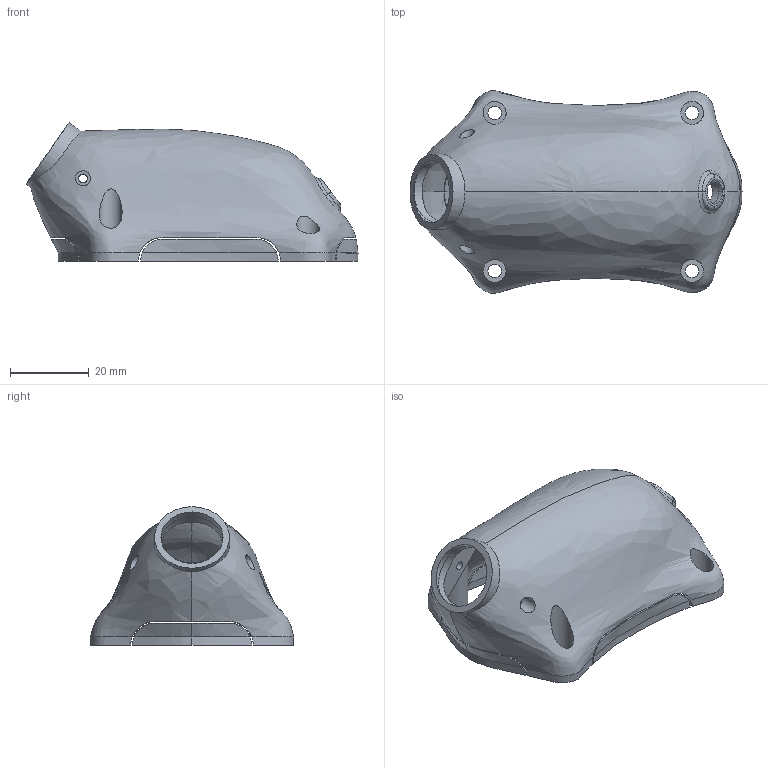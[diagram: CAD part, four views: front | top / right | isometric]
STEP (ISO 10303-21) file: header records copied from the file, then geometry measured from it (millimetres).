
FILE_DESCRIPTION(/* description */ (''),/* implementation_level */ '2;1');
FILE_NAME(/* name */ 'C:/modellbau-koepenick.de/canopies/pods/ZOZI/BusyMole/m193520-m___ZOz1-canopy_by_SMK.step',/* time_stamp */ '2021-10-15T23:13:52+02:00',/* author */ (''),/* organization */ (''),/* preprocessor_version */ 'ST-DEVELOPER v18.1',/* originating_system */ 'Autodesk Translation Framework v10.10.0.1391',/* authorisation */ '');
FILE_SCHEMA (('AUTOMOTIVE_DESIGN { 1 0 10303 214 3 1 1 }'));
Length unit declared in the file: millimetre
Products named in the file (1): m193520-m___ZOz1-canopy_by_SMK
Bounding box: 84.06 x 51.42 x 35.08 mm (x, y, z)
Volume: 14589.2 mm3; surface area: 16137.7 mm2
Topology: 5 solids, 5 shells, 117 faces, 318 edges, 211 vertices
Faces by surface type: bspline 50, cylinder 39, plane 28
Full cylindrical faces by diameter (mm): 2.2 x2, 3.4 x4, 3.8 x2, 5.8 x4, 6.2 x1, 15.75 x1, 19 x1
Entity records: 19227 total; most frequent: CARTESIAN_POINT 16771, ORIENTED_EDGE 624, EDGE_CURVE 312, DIRECTION 269, B_SPLINE_CURVE_WITH_KNOTS 213, VERTEX_POINT 211, EDGE_LOOP 139, FACE_OUTER_BOUND 117
